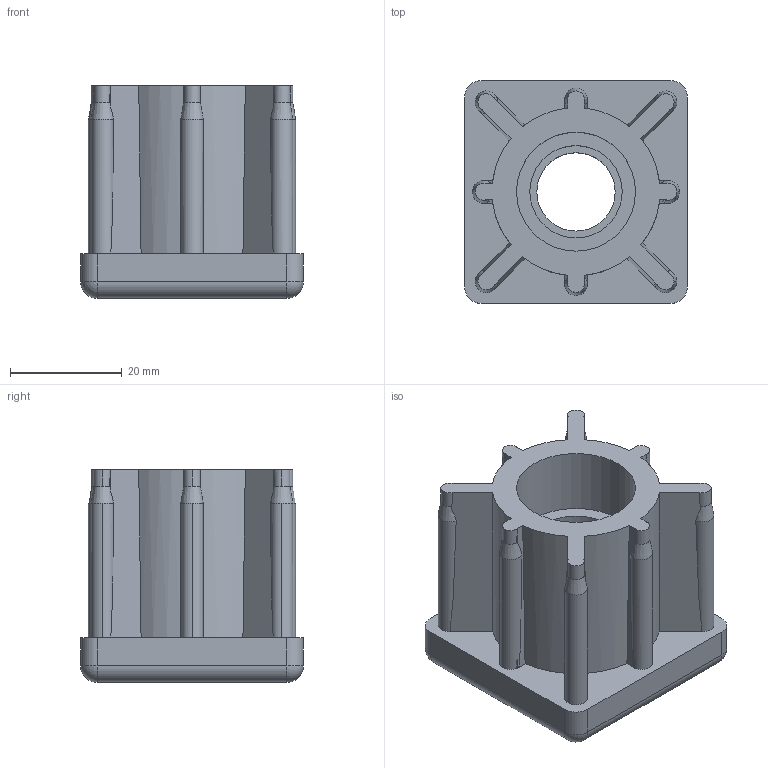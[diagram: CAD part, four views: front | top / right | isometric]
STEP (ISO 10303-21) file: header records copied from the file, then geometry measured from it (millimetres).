
FILE_DESCRIPTION (( 'STEP AP214' ), '1' );
FILE_NAME ('42006840214.STEP', '2020-02-26T10:41:10', ( '' ), ( '' ), 'SwSTEP 2.0', 'SolidWorks 2018', '' );
FILE_SCHEMA (( 'AUTOMOTIVE_DESIGN' ));
Length unit declared in the file: millimetre
Products named in the file (1): 42006840214
Bounding box: 39.8 x 39.8 x 38 mm (x, y, z)
Volume: 29842.2 mm3; surface area: 13446.4 mm2
Topology: 2 solids, 2 shells, 134 faces, 365 edges, 234 vertices
Faces by surface type: cylinder 56, plane 55, cone 19, sphere 4
Entity records: 4540 total; most frequent: CARTESIAN_POINT 1284, ORIENTED_EDGE 722, DIRECTION 653, EDGE_CURVE 361, AXIS2_PLACEMENT_3D 259, VERTEX_POINT 234, EDGE_LOOP 141, LINE 135
